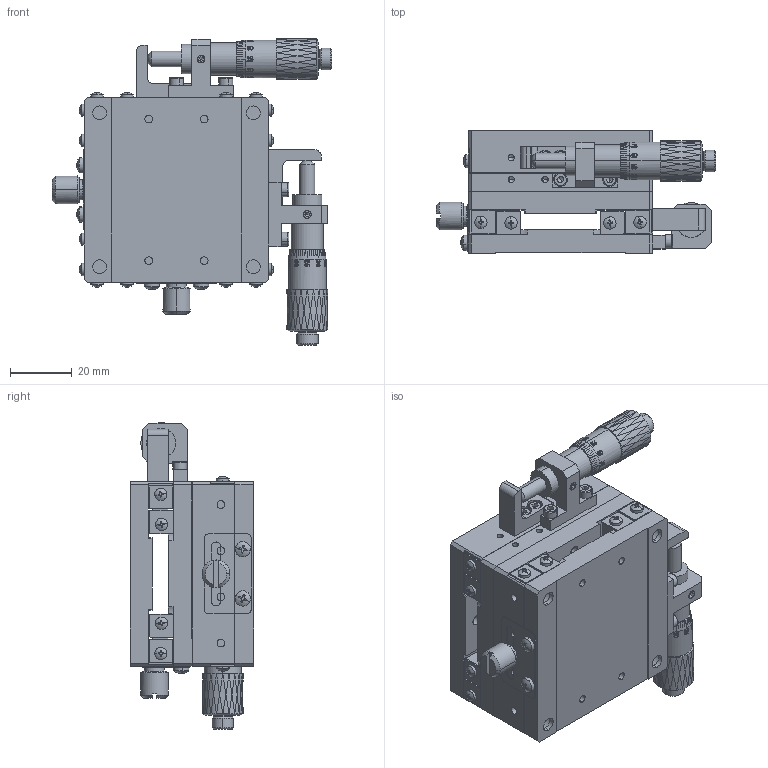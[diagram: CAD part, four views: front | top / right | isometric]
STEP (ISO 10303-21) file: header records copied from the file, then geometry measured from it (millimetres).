
FILE_DESCRIPTION (( 'STEP AP203' ), '1' );
FILE_NAME ('BGB60.STEP', '2023-08-28T05:55:51', ( 'China' ), ( 'Microsoft' ), 'SwSTEP 2.0', 'SolidWorks 2023', '' );
FILE_SCHEMA (( 'CONFIG_CONTROL_DESIGN' ));
Products named in the file (1): BGB60
Bounding box: 90.9 x 40 x 99.6 mm (x, y, z)
Volume: 129342.6 mm3; surface area: 78592.1 mm2
Topology: 136 solids, 136 shells, 3480 faces, 8910 edges, 5772 vertices
Faces by surface type: plane 1072, cylinder 1042, bspline 802, cone 400, sphere 148, torus 16
Entity records: 174359 total; most frequent: CARTESIAN_POINT 98561, ORIENTED_EDGE 17036, DIRECTION 13064, EDGE_CURVE 8518, VERTEX_POINT 5616, AXIS2_PLACEMENT_3D 5115, EDGE_LOOP 4062, FACE_OUTER_BOUND 3480
